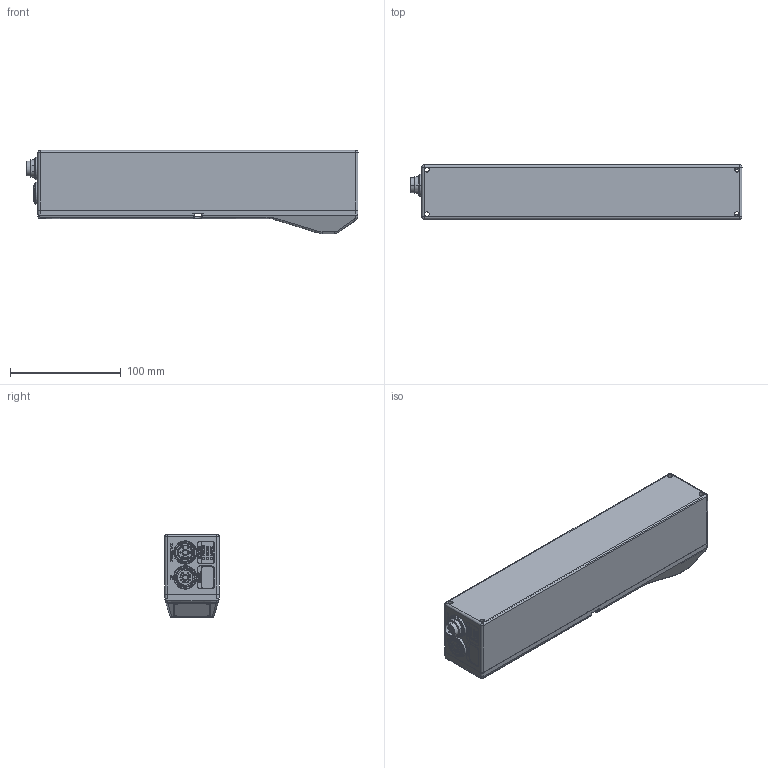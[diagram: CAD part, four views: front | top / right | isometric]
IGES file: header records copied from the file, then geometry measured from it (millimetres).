
Start section: SolidWorks IGES file using analytic representation for surfaces
Global section: file name: C:\_LMI\VAULT\SENSORS\dev\RD\Gocator\Models\1x00\_Base\Documents\Manual Drawings\Goactor 1x00 Basic Housing, 289mm.IGS; native system: SolidWorks 2012; preprocessor: SolidWorks 2012; author: Jeff; date: 130122.152416; units: millimetre
Bounding box: 299.75 x 49 x 75 mm (x, y, z)
Surface area: 119952.3 mm2 (no closed solid volume)
Topology: 0 solids, 0 shells, 395 faces, 7015 edges, 6977 vertices
Faces by surface type: revolution 228, bspline 167
